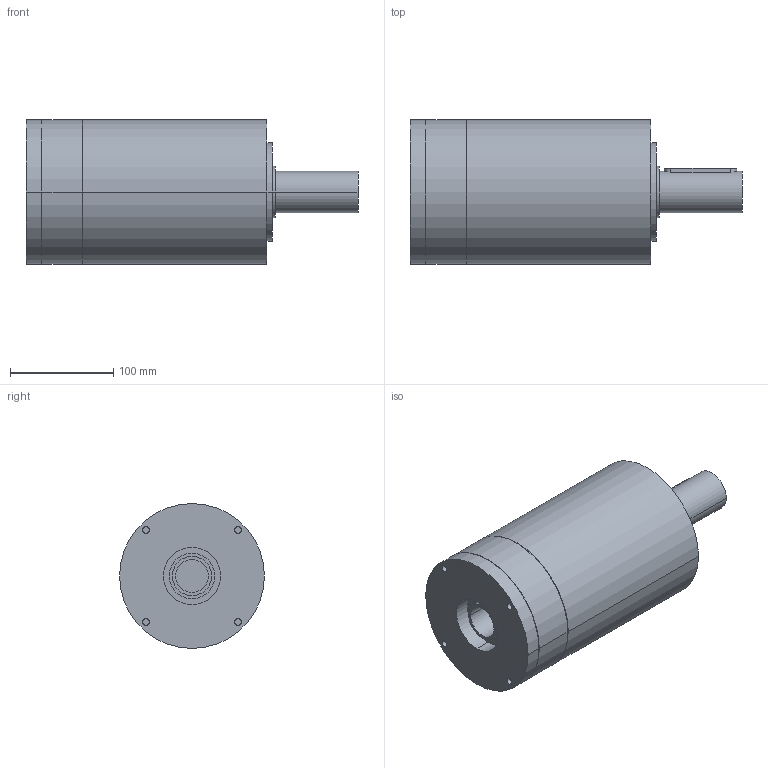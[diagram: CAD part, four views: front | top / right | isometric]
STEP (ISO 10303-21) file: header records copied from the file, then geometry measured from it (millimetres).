
FILE_DESCRIPTION(('CoCreate Modeling STEP Export'),'2;1');
FILE_NAME('GPR150_ig-9-12-16-20-28-35_40_B14_32_P01.stp','2014-08-19T17:03:56',(''),(''),'CoCreate Modeling STEP processor for AP214 (Solid Model)','CoCreate Modeling 16.00C 25-Feb-2009 (C) Parametric Technology GmbH','');
FILE_SCHEMA(('AUTOMOTIVE_DESIGN { 1 0 10303 214 1 1 1 1 }'));
Length unit declared in the file: millimetre
Products named in the file (2): GPR150_ig-9-12-16-20-28-35_40_B14_32_P01
Assembly tree (1 placements, depth 2):
  GPR150_ig-9-12-16-20-28-35_40_B14_32_P01
    GPR150_ig-9-12-16-20-28-35_40_B14_32_P01
Bounding box: 321 x 140 x 140 mm (x, y, z)
Volume: 3624384 mm3; surface area: 164548.2 mm2
Topology: 1 solids, 1 shells, 80 faces, 197 edges, 139 vertices
Faces by surface type: cylinder 48, plane 26, cone 6
Entity records: 2025 total; most frequent: ORIENTED_EDGE 390, CARTESIAN_POINT 388, DIRECTION 262, EDGE_CURVE 195, VERTEX_POINT 139, EDGE_LOOP 102, AXIS2_PLACEMENT_3D 101, FACE_OUTER_BOUND 80
